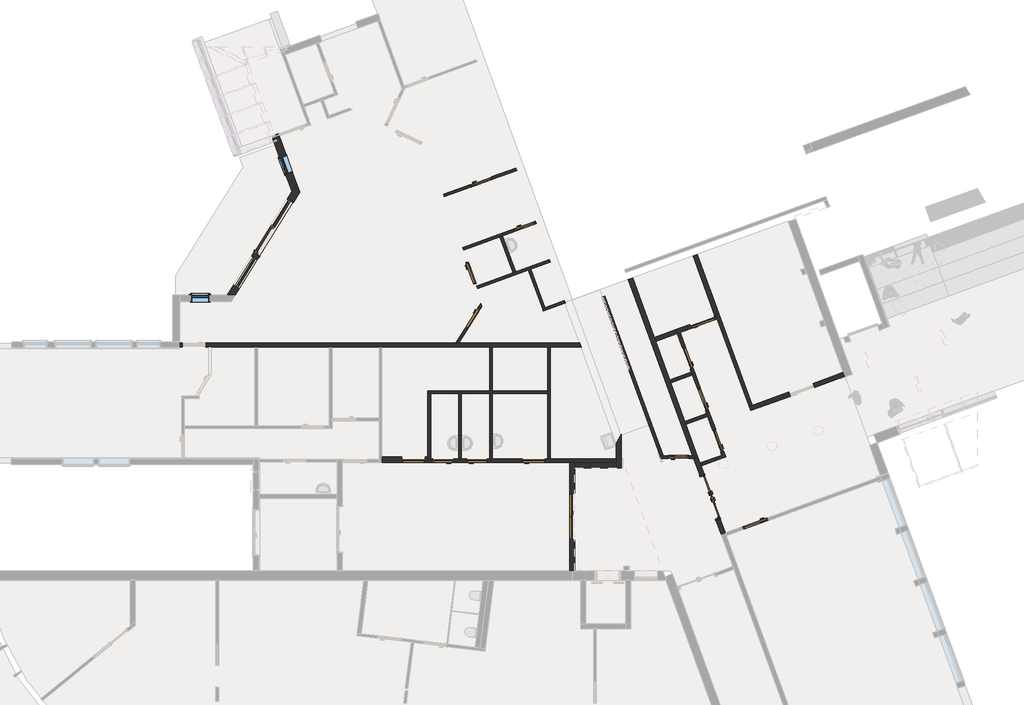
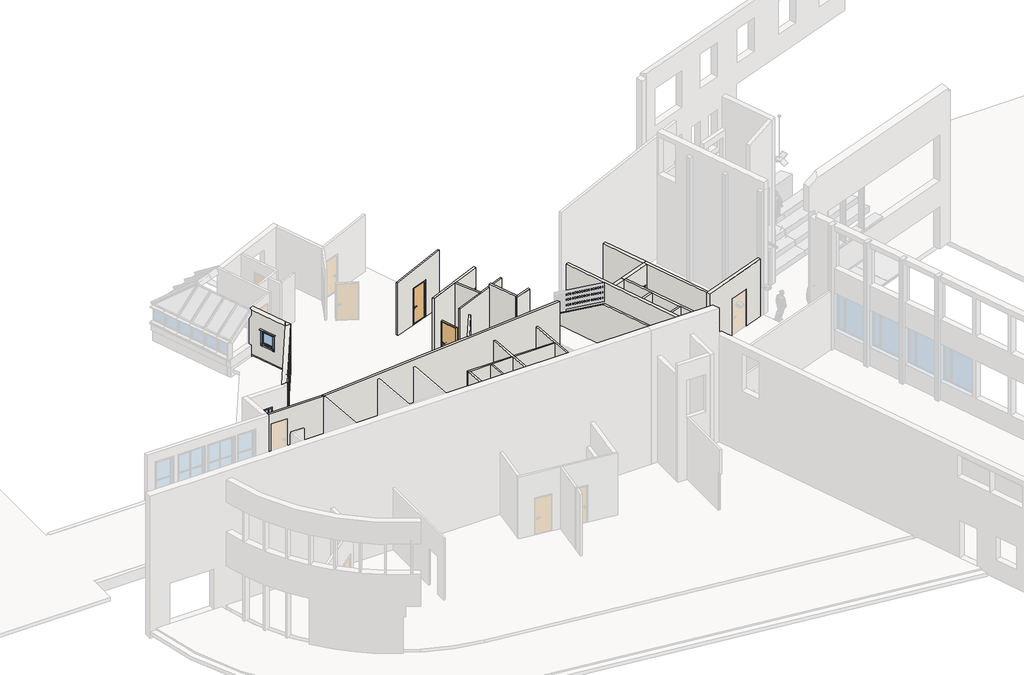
# One storey, part 7 of 13: 38 walls, 18 doors, 2 windows.
"""IFC4 building model written with IfcOpenShell, lengths in millimetres."""

from ifc_helpers import new_model, si_unit, frame, origin, place, context, project, spatial, polyline, outline, extrude, faceted_brep, transform, mapped, element, save
from components import door_10x21_f2746e1a, door_10x21_f5951159, door_18x21_0508fdc8, door_25x21_st1_7496c36d, door_8x21_e3e5b9c7, door_8x21_1535dc22, door_8x21_60cf5580, door_8x21_7557395c, door_9x21_77222ef3, door_9x21_12a167ef, door_9x21_ce0798c1, door_9x21_316ed650, door_9x21_26e5542c, fast_felt_stf_1_stf1_1_324_4ac73a34, m_door_id_dbl_2_1810_x_2110mm_165bc984, window_7x7_fk_a7d3f3a8, window_7x7_fk_a22a5b26

model = new_model("IFC4")

# Units and contexts
model_context = context("Model", 3, world=origin())
ifc_project = project(units=[si_unit("LENGTHUNIT", "METRE", prefix="MILLI")], contexts=[model_context])

# Site, building, storey
site = spatial("IfcSite", under=ifc_project)
building = spatial("IfcBuilding", under=site)
storey = spatial("IfcBuildingStorey", under=building, Name="1.0 første etg hovedbygg", Elevation=2500.0)

# Doors
placement = place(None, origin())
door_10x21_shape = door_10x21_f2746e1a(model_context)
element("IfcDoor", 1, ObjectType="Innerdør Slett (Diplomat) : 10x21", at=placement, inside=storey, context=model_context, shape_type="MappedRepresentation", body=[
    mapped(door_10x21_shape, transform((28285.6933124, 9596.8825087, 2500.0), x_axis=(-0.9396926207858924, -0.3420201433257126, 0.0), y_axis=(0.3420201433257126, -0.9396926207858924, 0.0), z_axis=(0.0, 0.0, 1.0))),
])
door_10x21_2_shape = door_10x21_f5951159(model_context)
element("IfcDoor", 2, ObjectType="Innerdør Slett (Diplomat) : 10x21", at=placement, inside=storey, context=model_context, shape_type="MappedRepresentation", body=[
    mapped(door_10x21_2_shape, transform((30233.0552928, 1702.8582925, 2500.0), x_axis=(0.9396926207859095, 0.34202014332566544, 0.0), y_axis=(-0.34202014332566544, 0.9396926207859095, 0.0), z_axis=(0.0, 0.0, 1.0))),
])
door_18x21_shape = door_18x21_0508fdc8(model_context)
element("IfcDoor", 3, ObjectType="Innerdør stål branndør A dobbel : 18x21", at=placement, inside=storey, context=model_context, shape_type="MappedRepresentation", body=[
    mapped(door_18x21_shape, transform((23151.9162483, 1946.620367, 2500.0), x_axis=(0.0, 1.0, 0.0), y_axis=(-1.0, 0.0, 0.0), z_axis=(0.0, 0.0, 1.0))),
])
door_25x21_st1_shape = door_25x21_st1_7496c36d(model_context)
element("IfcDoor", 4, ObjectType="Balkongdor ST 1 : 25x21 ST1", at=placement, inside=storey, context=model_context, shape_type="MappedRepresentation", body=[
    mapped(door_25x21_st1_shape, transform((11524.6539438, 13258.6225432, 2500.0), x_axis=(-0.5299192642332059, -0.8480480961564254, 0.0), y_axis=(0.8480480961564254, -0.5299192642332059, 0.0), z_axis=(0.0, 0.0, 1.0))),
])
door_8x21_shape = door_8x21_e3e5b9c7(model_context)
element("IfcDoor", 5, ObjectType="Innerdør Slett (Diplomat) : 8x21", at=placement, inside=storey, context=model_context, shape_type="MappedRepresentation", body=[
    mapped(door_8x21_shape, transform((18073.5366152, 4175.0, 2500.0), x_axis=(1.0, 0.0, 0.0), y_axis=(0.0, 1.0, 0.0), z_axis=(0.0, 0.0, 1.0))),
])
door_8x21_2_shape = door_8x21_1535dc22(model_context)
element("IfcDoor", 6, ObjectType="Innerdør Slett (Diplomat) : 8x21", at=placement, inside=storey, context=model_context, shape_type="MappedRepresentation", body=[
    mapped(door_8x21_2_shape, transform((19500.2958813, 4175.0, 2500.0), x_axis=(-1.0, 0.0, 0.0), y_axis=(0.0, -1.0, 0.0), z_axis=(0.0, 0.0, 1.0))),
])
door_8x21_3_shape = door_8x21_60cf5580(model_context)
element("IfcDoor", 7, ObjectType="Innerdør Slett (Diplomat) : 8x21", at=placement, inside=storey, context=model_context, shape_type="MappedRepresentation", body=[
    mapped(door_8x21_3_shape, transform((27346.3914611, 4319.2748738, 2500.0), x_axis=(-1.0, 0.0, 0.0), y_axis=(0.0, -1.0, 0.0), z_axis=(0.0, 0.0, 1.0))),
])
door_8x21_4_shape = door_8x21_7557395c(model_context)
element("IfcDoor", 8, ObjectType="Innerdør Slett (Diplomat) : 8x21", at=placement, inside=storey, context=model_context, shape_type="MappedRepresentation", body=[
    mapped(door_8x21_4_shape, transform((21363.7045102, 13328.5558584, 2500.0), x_axis=(-0.9396926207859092, -0.34202014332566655, 0.0), y_axis=(0.34202014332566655, -0.9396926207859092, 0.0), z_axis=(0.0, 0.0, 1.0))),
])
door_9x21_shape = door_9x21_77222ef3(model_context)
element("IfcDoor", 9, ObjectType="Innerdør Slett (Diplomat) : 9x21", at=placement, inside=storey, context=model_context, shape_type="MappedRepresentation", body=[
    mapped(door_9x21_shape, transform((28816.5747381, 4993.4139609, 2500.0), x_axis=(0.34202007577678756, -0.9396926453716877, 0.0), y_axis=(0.9396926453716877, 0.34202007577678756, 0.0), z_axis=(0.0, 0.0, 1.0))),
])
element("IfcDoor", 10, ObjectType="Innerdør Slett (Diplomat) : 9x21", at=placement, inside=storey, context=model_context, shape_type="MappedRepresentation", body=[
    mapped(door_9x21_shape, transform((28227.7146972, 6611.2939883, 2500.0), x_axis=(0.34202007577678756, -0.9396926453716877, 0.0), y_axis=(0.9396926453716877, 0.34202007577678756, 0.0), z_axis=(0.0, 0.0, 1.0))),
])
element("IfcDoor", 11, ObjectType="Innerdør Slett (Diplomat) : 9x21", at=placement, inside=storey, context=model_context, shape_type="MappedRepresentation", body=[
    mapped(door_9x21_shape, transform((27641.6778354, 8221.4173932, 2500.0), x_axis=(0.34202007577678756, -0.9396926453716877, 0.0), y_axis=(0.9396926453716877, 0.34202007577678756, 0.0), z_axis=(0.0, 0.0, 1.0))),
])
door_9x21_2_shape = door_9x21_12a167ef(model_context)
element("IfcDoor", 12, ObjectType="Innerdør Slett (Diplomat) : 9x21", at=placement, inside=storey, context=model_context, shape_type="MappedRepresentation", body=[
    mapped(door_9x21_2_shape, transform((21710.2958813, 4175.0, 2500.0), x_axis=(-1.0, 0.0, 0.0), y_axis=(0.0, -1.0, 0.0), z_axis=(0.0, 0.0, 1.0))),
])
door_9x21_3_shape = door_9x21_ce0798c1(model_context)
element("IfcDoor", 13, ObjectType="Innerdør Slett (Diplomat) : 9x21", at=placement, inside=storey, context=model_context, shape_type="MappedRepresentation", body=[
    mapped(door_9x21_3_shape, transform((19669.2183425, 15053.0044304, 2500.0), x_axis=(-0.9396926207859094, -0.3420201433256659, 0.0), y_axis=(0.3420201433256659, -0.9396926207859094, 0.0), z_axis=(0.0, 0.0, 1.0))),
])
door_9x21_4_shape = door_9x21_316ed650(model_context)
element("IfcDoor", 14, ObjectType="Innerdør Slett (Diplomat) : 9x21", at=placement, inside=storey, context=model_context, shape_type="MappedRepresentation", body=[
    mapped(door_9x21_4_shape, transform((19254.895983, 9668.673877, 2500.0), x_axis=(0.5299192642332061, 0.8480480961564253, 0.0), y_axis=(-0.8480480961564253, 0.5299192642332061, 0.0), z_axis=(0.0, 0.0, 1.0))),
])
element("IfcDoor", 15, ObjectType="Innerdør Slett (Diplomat) : 9x21", at=placement, inside=storey, context=model_context, shape_type="MappedRepresentation", body=[
    mapped(door_9x21_4_shape, transform((19225.9218388, 11429.4834072, 2500.0), x_axis=(-0.34202014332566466, 0.9396926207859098, 0.0), y_axis=(-0.9396926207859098, -0.34202014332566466, 0.0), z_axis=(0.0, 0.0, 1.0))),
])
door_9x21_5_shape = door_9x21_26e5542c(model_context)
element("IfcDoor", 16, ObjectType="Innerdør Slett (Diplomat) : 9x21", at=placement, inside=storey, context=model_context, shape_type="MappedRepresentation", body=[
    mapped(door_9x21_5_shape, transform((17030.2958813, 4210.0, 2500.0), x_axis=(-1.0, 0.0, 0.0), y_axis=(0.0, -1.0, 0.0), z_axis=(0.0, 0.0, 1.0))),
])
fast_felt_stf_1_stf1_1_324_shape = fast_felt_stf_1_stf1_1_324_4ac73a34(model_context)
element("IfcDoor", 17, ObjectType="Fast-Felt STF 1 : STF1 1,324", at=placement, inside=storey, context=model_context, shape_type="MappedRepresentation", body=[
    mapped(fast_felt_stf_1_stf1_1_324_shape, transform((10435.1399365, 11515.0356575, 2500.0), x_axis=(0.5299192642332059, 0.8480480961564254, 0.0), y_axis=(-0.8480480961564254, 0.5299192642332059, 0.0), z_axis=(0.0, 0.0, 1.0))),
])
m_door_id_dbl_2_1810_x_2110mm_shape = m_door_id_dbl_2_1810_x_2110mm_165bc984(model_context)
element("IfcDoor", 18, ObjectType="M_Door_ID_Dbl_2 : 1810 x 2110mm", at=placement, inside=storey, context=model_context, shape_type="MappedRepresentation", body=[
    mapped(m_door_id_dbl_2_1810_x_2110mm_shape, transform((28517.8931241, 2755.7344856, 2500.0), x_axis=(0.34202014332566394, -0.9396926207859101, 0.0), y_axis=(0.9396926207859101, 0.34202014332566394, 0.0), z_axis=(0.0, 0.0, 1.0))),
])

# Walls
element("IfcWall", 19, ObjectType="Yttervegg 200 betong seksjonsskille", at=placement, inside=storey, context=model_context, shape_type="Brep", body=[
    faceted_brep([(23251.9162483, -110.0, 5911.6745073), (23251.9162483, -110.0, 2500.0), (23251.9162483, 1095.0, 2500.0), (23251.9162483, 1095.0, 4615.0), (23251.9162483, 2905.0, 4615.0), (23251.9162483, 2905.0, 2500.0), (23251.9162483, 3900.0, 2500.0), (23251.9162483, 4100.0, 2500.0), (23251.9162483, 4100.0, 5543.3472339), (23251.9162483, 3900.0, 5560.8449666), (23051.9162483, -110.0, 2500.0), (23051.9162483, -110.0, 5911.6745073), (23051.9162483, 4100.0, 5543.3472339), (23051.9162483, 4100.0, 2500.0), (23051.9162483, 2905.0, 2500.0), (23051.9162483, 2905.0, 4615.0), (23051.9162483, 1095.0, 4615.0), (23051.9162483, 1095.0, 2500.0)], [[[0, 1, 2, 3, 4, 5, 6, 7, 8, 9]], [[10, 11, 12, 13, 14, 15, 16, 17]], [[1, 10, 17, 2]], [[13, 7, 6, 5, 14]], [[1, 0, 11, 10]], [[8, 7, 13, 12]], [[0, 9, 8, 12, 11]], [[16, 3, 2, 17]], [[3, 16, 15, 4]], [[4, 15, 14, 5]]]),
])
element("IfcWall", 20, ObjectType="Yttervegg Tre 198 Isolert Liggende Kledning", at=placement, inside=storey, context=model_context, shape_type="Brep", body=[
    faceted_brep([(10037.7598281, 10630.0, 5023.0970072), (10037.7598281, 10630.0, 2500.0), (10196.2757323, 10883.6784749, 2500.0), (10196.2757323, 10883.6784749, 4600.0), (10897.8888381, 12006.4941542, 4600.0), (10897.8888381, 12006.4941542, 2500.0), (10968.8980195, 12120.1325991, 2500.0), (10968.8980195, 12120.1325991, 4600.0), (12304.2945654, 14257.2138014, 4600.0), (12304.2945654, 14257.2138014, 2500.0), (12540.3752971, 14635.021948, 2500.0), (12540.3752971, 14635.021948, 5023.0970072), (9726.4567296, 10630.0, 2500.0), (9726.4567296, 10630.0, 5000.0), (12248.2574516, 14665.7247708, 5000.0), (12425.7914321, 14949.8385298, 5023.0970072), (12425.7914321, 14949.8385298, 2500.0), (12248.2574516, 14665.7247708, 2500.0), (12080.409868, 14397.1124872, 2500.0), (12080.409868, 14397.1124872, 4600.0), (10745.0133222, 12260.0312849, 4600.0), (10745.0133222, 12260.0312849, 2500.0), (10674.0041408, 12146.39284, 2500.0), (10674.0041408, 12146.39284, 4600.0), (9972.3910349, 11023.5771607, 4600.0), (9972.3910349, 11023.5771607, 2500.0), (9790.1323634, 10630.0, 2500.0), (10018.1856321, 10994.9615204, 2500.0), (12449.2290408, 14885.444229, 2500.0), (12126.2044652, 14368.4968469, 2500.0), (10790.8079194, 12231.4156446, 2500.0), (10719.7987379, 12117.7771997, 2500.0)], [[[0, 1, 2, 3, 4, 5, 6, 7, 8, 9, 10, 11]], [[12, 13, 14, 15, 16, 17, 18, 19, 20, 21, 22, 23, 24, 25]], [[1, 26, 27, 2]], [[28, 10, 9, 29]], [[30, 6, 5, 31]], [[1, 0, 13, 12, 26]], [[26, 12, 25, 27]], [[16, 28, 29, 18, 17]], [[21, 30, 31, 22]], [[11, 10, 28, 16, 15]], [[13, 0, 11, 14]], [[11, 15, 14]], [[7, 6, 30, 21, 20]], [[8, 7, 20, 19]], [[9, 8, 19, 18, 29]], [[4, 23, 22, 31, 5]], [[23, 4, 3, 24]], [[24, 3, 2, 27, 25]]]),
])
element("IfcWall", 21, ObjectType="Yttervegg Tre 198 Isolert Liggende Kledning", at=placement, inside=storey, context=model_context, shape_type="Brep", body=[
    faceted_brep([(12425.7914321, 14949.8385298, 2500.0), (11749.2309068, 16808.6732959, 2500.0), (11749.2309068, 16808.6732959, 5023.0970072), (12425.7914321, 14949.8385298, 5023.0970072), (12014.2740033, 16080.473373, 3380.0), (12257.1083051, 15413.2916122, 3380.0), (12257.1083051, 15413.2916122, 4090.0), (12014.2740033, 16080.473373, 4090.0), (12248.2574516, 14665.7247708, 2500.0), (12248.2574516, 14665.7247708, 5000.0), (11551.0826985, 16581.1966622, 5000.0), (11501.1520549, 16718.379978, 5000.0), (11501.1520549, 16718.379978, 3000.0), (11551.0826985, 16581.1966622, 3000.0), (11551.0826985, 16581.1966622, 2500.0), (11766.1951514, 15990.1800552, 3380.0), (11766.1951514, 15990.1800552, 4090.0), (12009.0294532, 15322.9982944, 4090.0), (12009.0294532, 15322.9982944, 3380.0), (12284.5712203, 14723.8389488, 2500.0), (11601.8261, 16599.66575, 2500.0), (11675.1221244, 16626.3433212, 2500.0), (11625.1914809, 16763.5266369, 2500.0), (11625.1914809, 16763.5266369, 3000.0), (11675.1221244, 16626.3433212, 3000.0)], [[[0, 1, 2, 3], [4, 5, 6, 7]], [[8, 9, 10, 11, 12, 13, 14], [15, 16, 17, 18]], [[1, 0, 19, 20, 21, 22]], [[0, 3, 9, 8, 19]], [[19, 8, 14, 20]], [[3, 2, 11, 10, 9]], [[12, 23, 24, 13]], [[22, 21, 24, 23]], [[21, 20, 14, 13, 24]], [[1, 22, 23, 12, 11, 2]], [[16, 15, 4, 7]], [[17, 16, 7, 6]], [[18, 17, 6, 5]], [[15, 18, 5, 4]]]),
])
element("IfcWall", 22, ObjectType="Yttervegg Betong - Massiv 170mm", at=placement, inside=storey, context=model_context, shape_type="SweptSolid", body=[
    extrude(outline(polyline([(1555.0, -3520.0), (-1572.7621165, -3520.0), (-1572.7621165, -2115.0), (-562.7621165, -2115.0), (-562.7621165, -2110.0), (-10.0, -2110.0), (-10.0, -2115.0), (1000.0, -2115.0), (1000.0, 0.0), (1555.0, 0.0), (1555.0, -3520.0)])), frame((28423.5730444, 2766.3534008, 2500.0), z_axis=(0.9396926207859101, 0.34202014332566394, 0.0), x_axis=(0.34202014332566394, -0.9396926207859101, 0.0)), (0.0, 0.0, 1.0), 170.0),
])
element("IfcWall", 23, ObjectType="Yttervegg 200 betong seksjonsskille", at=placement, inside=storey, context=model_context, shape_type="Brep", body=[
    faceted_brep([(23251.9162483, 3900.0, 5560.8449666), (23251.9162483, 3900.0, 2500.0), (23856.9162483, 3900.0, 2500.0), (23856.9162483, 3900.0, 4615.0), (24766.9162483, 3900.0, 4615.0), (24766.9162483, 3900.0, 2500.0), (24866.8558497, 3900.0, 2500.0), (24866.8558497, 3900.0, 4900.0), (24866.8558497, 3900.0, 5560.8449666), (23251.9162483, 4100.0, 2500.0), (23251.9162483, 4100.0, 5543.3472339), (24866.8558497, 4100.0, 5543.3472339), (24866.8558497, 4100.0, 2500.0), (24766.9162483, 4100.0, 2500.0), (24766.9162483, 4100.0, 4615.0), (23856.9162483, 4100.0, 4615.0), (23856.9162483, 4100.0, 2500.0)], [[[0, 1, 2, 3, 4, 5, 6, 7, 8]], [[9, 10, 11, 12, 13, 14, 15, 16]], [[1, 9, 16, 2]], [[12, 6, 5, 13]], [[1, 0, 10, 9]], [[8, 7, 6, 12, 11]], [[0, 8, 11, 10]], [[4, 14, 13, 5]], [[14, 4, 3, 15]], [[15, 3, 2, 16]]]),
])
element("IfcWall", 24, ObjectType="Yttervegg 200 betong seksjonsskille", at=placement, inside=storey, context=model_context, shape_type="Brep", body=[
    faceted_brep([(24866.8558497, 4848.7480081, 2500.0), (24866.8558497, 4100.0, 2500.0), (24866.8558497, 3900.0, 2500.0), (24866.8558497, 3900.0, 4900.0), (24866.8558497, 4848.7480081, 4900.0), (25066.8558497, 5205.6318882, 2500.0), (25066.8558497, 5205.6318882, 4900.0), (25066.8558497, 3900.0, 4900.0), (25066.8558497, 3900.0, 2500.0)], [[[0, 1, 2, 3, 4]], [[5, 6, 7, 8]], [[2, 1, 0, 5, 8]], [[4, 3, 7, 6]], [[3, 2, 8, 7]], [[0, 4, 6, 5]]]),
])
element("IfcWall", 25, ObjectType="Yttervegg Betong - Massiv 170mm", at=placement, inside=storey, context=model_context, shape_type="Brep", body=[
    faceted_brep([(28045.4044654, 4302.4097803, 2500.0), (25504.1948005, 11284.3259527, 2500.0), (25504.1948005, 11284.3259527, 6020.0), (28045.4044654, 4302.4097803, 6020.0), (28045.4044654, 4302.4097803, 4615.0), (25344.447055, 11226.1825284, 2500.0), (27885.6567199, 4244.2663559, 2500.0), (27885.6567199, 4244.2663559, 4615.0), (27885.6567199, 4244.2663559, 6020.0), (25344.447055, 11226.1825284, 6020.0)], [[[0, 1, 2, 3, 4]], [[5, 6, 7, 8, 9]], [[1, 0, 6, 5]], [[3, 2, 9, 8]], [[3, 8, 7, 6, 0, 4]], [[2, 1, 5, 9]]]),
])
element("IfcWall", 26, ObjectType="Yttervegg Betong - Massiv 170mm", at=placement, inside=storey, context=model_context, shape_type="SweptSolid", body=[
    extrude(outline(polyline([(1000.0, 0.0), (1000.0, -2115.0), (-10.0, -2115.0), (-10.0, -2110.0), (947.2378835, -2110.0), (947.2378835, 0.0), (1000.0, 0.0)])), frame((28423.5730444, 2766.3534008, 2500.0), z_axis=(0.9396926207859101, 0.34202014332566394, 0.0), x_axis=(0.34202014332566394, -0.9396926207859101, 0.0)), (0.0, 0.0, 1.0), 170.0),
])
element("IfcWall", 27, ObjectType="Yttervegg Betong - Massiv 170mm", at=placement, inside=storey, context=model_context, shape_type="SweptSolid", body=[
    extrude(outline(polyline([(-562.7621165, -2115.0), (-1572.7621165, -2115.0), (-1572.7621165, 0.0), (-862.7621165, 0.0), (-862.7621165, -2110.0), (-562.7621165, -2110.0), (-562.7621165, -2115.0)])), frame((28423.5730444, 2766.3534008, 2500.0), z_axis=(0.9396926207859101, 0.34202014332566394, 0.0), x_axis=(0.34202014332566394, -0.9396926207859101, 0.0)), (0.0, 0.0, 1.0), 170.0),
])
element("IfcWall", 28, ObjectType="Innervegg Tre 148", at=placement, inside=storey, context=model_context, shape_type="Brep", body=[
    faceted_brep([(33693.7832827, 7612.9168603, 2500.0), (32528.5715606, 7188.8122757, 2500.0), (32528.5715606, 7188.8122757, 4615.0), (31579.4825898, 6843.3703478, 4615.0), (31579.4825898, 6843.3703478, 2500.0), (30161.4807309, 6327.2572005, 2500.0), (30046.8383008, 6285.5305518, 2500.0), (30046.8383008, 6285.5305518, 5750.0), (30161.4807309, 6327.2572005, 5750.0), (33693.7832827, 7612.9168603, 5750.0), (32587.3992948, 7027.1852431, 4615.0), (32587.3992948, 7027.1852431, 2500.0), (33752.6107474, 7451.2897295, 2500.0), (33752.6107474, 7451.2897295, 5750.0), (30105.666035, 6123.9035191, 5750.0), (30105.666035, 6123.9035191, 2500.0), (31638.310324, 6681.7433152, 2500.0), (31638.310324, 6681.7433152, 4615.0)], [[[0, 1, 2, 3, 4, 5, 6, 7, 8, 9]], [[10, 11, 12, 13, 14, 15, 16, 17]], [[16, 15, 6, 5, 4]], [[12, 11, 1, 0]], [[9, 8, 7, 14, 13]], [[0, 9, 13, 12]], [[7, 6, 15, 14]], [[2, 1, 11, 10]], [[3, 2, 10, 17]], [[4, 3, 17, 16]]]),
])
element("IfcWall", 29, ObjectType="Innervegg Tre 98 med 100mm isolasjon", at=placement, inside=storey, context=model_context, shape_type="Brep", body=[
    faceted_brep([(30161.4807309, 6327.2572005, 2500.0), (28861.7982791, 9898.0868568, 2500.0), (28861.7982791, 9898.0868568, 5750.0), (30161.4807309, 6327.2572005, 5750.0), (30046.8383008, 6285.5305518, 2500.0), (30046.8383008, 6285.5305518, 5750.0), (28805.9835136, 9694.7333666, 5750.0), (28747.1557793, 9856.3603993, 5750.0), (28747.1557793, 9856.3603993, 2500.0), (28805.9835136, 9694.7333666, 2500.0)], [[[0, 1, 2, 3]], [[4, 5, 6, 7, 8, 9]], [[1, 0, 4, 9, 8]], [[3, 2, 7, 6, 5]], [[0, 3, 5, 4]], [[2, 1, 8, 7]]]),
])
element("IfcWall", 30, ObjectType="Innervegg Tre 148", at=placement, inside=storey, context=model_context, shape_type="Brep", body=[
    faceted_brep([(28747.1557793, 9856.3603993, 2500.0), (28700.1711483, 9839.2593921, 2500.0), (28680.6639063, 9832.1593367, 2500.0), (28680.6639063, 9832.1593367, 4615.0), (27731.5743593, 9486.7189919, 4615.0), (27731.5743593, 9486.7189919, 2500.0), (27188.2124644, 9288.9514357, 2500.0), (27188.2124644, 9288.9514357, 5750.0), (28700.1711483, 9839.2593921, 5750.0), (28747.1557793, 9856.3603993, 5750.0), (28739.491371, 9670.5322059, 4615.0), (28739.491371, 9670.5322059, 2500.0), (28805.9835136, 9694.7333666, 2500.0), (28805.9835136, 9694.7333666, 5750.0), (27361.6824172, 9169.0507582, 5750.0), (27247.0399174, 9127.3243007, 5750.0), (27247.0399174, 9127.3243007, 2500.0), (27361.6824172, 9169.0507582, 2500.0), (27790.401824, 9325.0918611, 2500.0), (27790.401824, 9325.0918611, 4615.0)], [[[0, 1, 2, 3, 4, 5, 6, 7, 8, 9]], [[10, 11, 12, 13, 14, 15, 16, 17, 18, 19]], [[12, 11, 2, 1, 0]], [[18, 17, 16, 6, 5]], [[9, 8, 7, 15, 14, 13]], [[0, 9, 13, 12]], [[7, 6, 16, 15]], [[3, 2, 11, 10]], [[4, 3, 10, 19]], [[5, 4, 19, 18]]]),
])
element("IfcWall", 31, ObjectType="Innervegg Tre 98 med 100mm isolasjon", at=placement, inside=storey, context=model_context, shape_type="Brep", body=[
    faceted_brep([(27247.0399174, 9127.3243007, 2500.0), (27446.9943557, 8577.9538737, 2500.0), (27446.9943557, 8577.9538737, 4615.0), (27758.2326247, 7722.8335664, 4615.0), (27758.2326247, 7722.8335664, 2500.0), (27794.2720387, 7623.8160681, 2500.0), (27835.9984879, 7509.1735654, 2500.0), (28033.0312175, 6967.8304688, 2500.0), (28033.0312175, 6967.8304688, 4615.0), (28344.2694865, 6112.7101615, 4615.0), (28344.2694865, 6112.7101615, 2500.0), (28383.2306091, 6005.6653328, 2500.0), (28424.9570584, 5891.0228301, 2500.0), (28621.8912584, 5349.9504413, 2500.0), (28621.8912584, 5349.9504413, 4615.0), (28933.1295274, 4494.830134, 4615.0), (28933.1295274, 4494.830134, 2500.0), (28972.1891796, 4387.5145975, 2500.0), (29013.9156289, 4272.8720947, 2500.0), (29013.9156289, 4272.8720947, 5750.0), (28972.1891796, 4387.5145975, 5750.0), (28424.9570584, 5891.0228301, 5750.0), (28383.2306091, 6005.6653328, 5750.0), (27835.9984879, 7509.1735654, 5750.0), (27794.2720387, 7623.8160681, 5750.0), (27247.0399174, 9127.3243007, 5750.0), (27561.6368585, 8619.6803229, 4615.0), (27561.6368585, 8619.6803229, 2500.0), (27361.6824172, 9169.0507582, 2500.0), (27361.6824172, 9169.0507582, 5750.0), (29128.5581286, 4314.5985522, 5750.0), (29128.5581286, 4314.5985522, 2500.0), (29047.7720301, 4536.5565833, 2500.0), (29047.7720301, 4536.5565833, 4615.0), (28736.5337612, 5391.6768906, 4615.0), (28736.5337612, 5391.6768906, 2500.0), (28458.9119892, 6154.4366107, 2500.0), (28458.9119892, 6154.4366107, 4615.0), (28147.6737203, 7009.556918, 4615.0), (28147.6737203, 7009.556918, 2500.0), (27872.8751274, 7764.5600156, 2500.0), (27872.8751274, 7764.5600156, 4615.0)], [[[0, 1, 2, 3, 4, 5, 6, 7, 8, 9, 10, 11, 12, 13, 14, 15, 16, 17, 18, 19, 20, 21, 22, 23, 24, 25]], [[26, 27, 28, 29, 30, 31, 32, 33, 34, 35, 36, 37, 38, 39, 40, 41]], [[32, 31, 18, 17, 16]], [[36, 35, 13, 12, 11, 10]], [[40, 39, 7, 6, 5, 4]], [[28, 27, 1, 0]], [[25, 24, 23, 22, 21, 20, 19, 30, 29]], [[0, 25, 29, 28]], [[19, 18, 31, 30]], [[14, 13, 35, 34]], [[15, 14, 34, 33]], [[16, 15, 33, 32]], [[8, 7, 39, 38]], [[9, 8, 38, 37]], [[10, 9, 37, 36]], [[2, 1, 27, 26]], [[3, 2, 26, 41]], [[4, 3, 41, 40]]]),
])
element("IfcWall", 32, ObjectType="Innervegg Tre 98 med 100mm isolasjon", at=placement, inside=storey, context=model_context, shape_type="SweptSolid", body=[
    extrude(outline(polyline([(28126.4655214, 4079.6963594), (28972.1891796, 4387.5145975), (29013.9156289, 4272.8720947), (28168.1919789, 3965.0538597), (28126.4655214, 4079.6963594)])), frame((0.0, 0.0, 2500.0), z_axis=(0.0, 0.0, 1.0), x_axis=(1.0, 0.0, 0.0)), (0.0, 0.0, 1.0), 3250.0),
])
element("IfcWall", 33, ObjectType="Innervegg Tre 98 med 100mm isolasjon", at=placement, inside=storey, context=model_context, shape_type="SweptSolid", body=[
    extrude(outline(polyline([(27537.5068346, 5697.8470524), (28383.2306091, 6005.6653328), (28424.9570584, 5891.0228301), (27579.2332921, 5583.2045527), (27537.5068346, 5697.8470524)])), frame((0.0, 0.0, 2500.0), z_axis=(0.0, 0.0, 1.0), x_axis=(1.0, 0.0, 0.0)), (0.0, 0.0, 1.0), 3250.0),
])
element("IfcWall", 34, ObjectType="Innervegg Tre 98 med 100mm isolasjon", at=placement, inside=storey, context=model_context, shape_type="SweptSolid", body=[
    extrude(outline(polyline([(26948.5481478, 7315.9977454), (27794.2720387, 7623.8160681), (27835.9984879, 7509.1735654), (26990.2746052, 7201.3552457), (26948.5481478, 7315.9977454)])), frame((0.0, 0.0, 2500.0), z_axis=(0.0, 0.0, 1.0), x_axis=(1.0, 0.0, 0.0)), (0.0, 0.0, 1.0), 3250.0),
])
element("IfcWall", 35, ObjectType="Innervegg Tre 148", at=placement, inside=storey, context=model_context, shape_type="Brep", body=[
    faceted_brep([(28861.7982791, 9898.0868568, 2500.0), (28023.500784, 12201.2783417, 2500.0), (28023.500784, 12201.2783417, 5750.0), (28861.7982791, 9898.0868568, 5750.0), (28700.1711483, 9839.2593921, 2500.0), (28700.1711483, 9839.2593921, 5750.0), (27861.8736532, 12142.4508771, 5750.0), (27861.8736532, 12142.4508771, 2500.0), (28747.1557793, 9856.3603993, 2500.0), (28747.1557793, 9856.3603993, 5750.0)], [[[0, 1, 2, 3]], [[4, 5, 6, 7]], [[1, 0, 8, 4, 7]], [[3, 2, 6, 5, 9]], [[0, 3, 9, 5, 4, 8]], [[2, 1, 7, 6]]]),
])
element("IfcWall", 36, ObjectType="Yttervegg 200 betong seksjonsskille", at=placement, inside=storey, context=model_context, shape_type="SweptSolid", body=[
    extrude(outline(polyline([(23856.9162483, 3900.0), (23856.9162483, 4100.0), (24766.9162483, 4100.0), (24766.9162483, 3900.0), (23856.9162483, 3900.0)])), frame((0.0, 0.0, 2500.0), z_axis=(0.0, 0.0, 1.0), x_axis=(1.0, 0.0, 0.0)), (0.0, 0.0, 1.0), 2115.0),
])
element("IfcWall", 37, ObjectType="Innervegg Tre 148", at=placement, inside=storey, context=model_context, shape_type="SweptSolid", body=[
    extrude(outline(polyline([(26342.4884538, 8981.1330695), (27188.2124644, 9288.9514357), (27247.0399174, 9127.3243007), (26401.3159184, 8819.5059387), (26342.4884538, 8981.1330695)])), frame((0.0, 0.0, 2500.0), z_axis=(0.0, 0.0, 1.0), x_axis=(1.0, 0.0, 0.0)), (0.0, 0.0, 1.0), 3250.0),
])
element("IfcWall", 38, ObjectType="Generic - 100mm - Filled", at=placement, inside=storey, context=model_context, shape_type="Brep", body=[
    faceted_brep([(22306.9162483, 4250.0, 2500.0), (22306.9162483, 8600.0, 2500.0), (22306.9162483, 8600.0, 5149.648248), (22306.9162483, 4250.0, 5530.2239344), (22206.9162483, 4250.0, 2500.0), (22206.9162483, 4250.0, 5530.2239344), (22206.9162483, 6800.0, 5307.1278424), (22206.9162483, 6900.0, 5298.378976), (22206.9162483, 8600.0, 5149.648248), (22206.9162483, 8600.0, 2500.0), (22206.9162483, 6900.0, 2500.0), (22206.9162483, 6800.0, 2500.0)], [[[0, 1, 2, 3]], [[4, 5, 6, 7, 8, 9, 10, 11]], [[1, 0, 4, 11, 10, 9]], [[0, 3, 5, 4]], [[2, 1, 9, 8]], [[3, 2, 8, 7, 6, 5]]]),
])
element("IfcWall", 39, ObjectType="Generic - 100mm - Filled", at=placement, inside=storey, context=model_context, shape_type="Brep", body=[
    faceted_brep([(20036.9162483, 4250.0, 2500.0), (20036.9162483, 6800.0, 2500.0), (20036.9162483, 6900.0, 2500.0), (20036.9162483, 8600.0, 2500.0), (20036.9162483, 8600.0, 5149.648248), (20036.9162483, 6900.0, 5298.378976), (20036.9162483, 6800.0, 5307.1278424), (20036.9162483, 4250.0, 5530.2239344), (19936.9162483, 4250.0, 2500.0), (19936.9162483, 4250.0, 5530.2239344), (19936.9162483, 6800.0, 5307.1278424), (19936.9162483, 6900.0, 5298.378976), (19936.9162483, 8600.0, 5149.648248), (19936.9162483, 8600.0, 2500.0), (19936.9162483, 6900.0, 2500.0), (19936.9162483, 6800.0, 2500.0)], [[[0, 1, 2, 3, 4, 5, 6, 7]], [[8, 9, 10, 11, 12, 13, 14, 15]], [[3, 2, 1, 0, 8, 15, 14, 13]], [[0, 7, 9, 8]], [[4, 3, 13, 12]], [[7, 6, 5, 4, 12, 11, 10, 9]]]),
])
element("IfcWall", 40, ObjectType="Generic - 100mm - Filled", at=placement, inside=storey, context=model_context, shape_type="Brep", body=[
    faceted_brep([(22206.9162483, 6900.0, 5298.378976), (22206.9162483, 6900.0, 2500.0), (20036.9162483, 6900.0, 2500.0), (20036.9162483, 6900.0, 5298.378976), (22206.9162483, 6800.0, 2500.0), (22206.9162483, 6800.0, 5307.1278424), (20036.9162483, 6800.0, 5307.1278424), (20036.9162483, 6800.0, 2500.0)], [[[0, 1, 2, 3]], [[4, 5, 6, 7]], [[1, 4, 7, 2]], [[1, 0, 5, 4]], [[3, 2, 7, 6]], [[5, 0, 3, 6]]]),
    faceted_brep([(17536.9162483, 6900.0, 2500.0), (17536.9162483, 6900.0, 5298.378976), (19936.9162483, 6900.0, 5298.378976), (19936.9162483, 6900.0, 2500.0), (17536.9162483, 6800.0, 5307.1278424), (17536.9162483, 6800.0, 2500.0), (17636.9162483, 6800.0, 2500.0), (18736.9162483, 6800.0, 2500.0), (18836.9162483, 6800.0, 2500.0), (19936.9162483, 6800.0, 2500.0), (19936.9162483, 6800.0, 5307.1278424), (18836.9162483, 6800.0, 5307.1278424), (18736.9162483, 6800.0, 5307.1278424), (17636.9162483, 6800.0, 5307.1278424)], [[[0, 1, 2, 3]], [[4, 5, 6, 7, 8, 9, 10, 11, 12, 13]], [[5, 0, 3, 9, 8, 7, 6]], [[3, 2, 10, 9]], [[1, 0, 5, 4]], [[1, 4, 13, 12, 11, 10, 2]]]),
])
element("IfcWall", 41, ObjectType="Generic - 100mm - Filled", at=placement, inside=storey, context=model_context, shape_type="Brep", body=[
    faceted_brep([(17536.9162483, 6800.0, 2500.0), (17536.9162483, 4320.0, 2500.0), (17536.9162483, 4100.0, 2500.0), (17536.9162483, 4100.0, 5543.3472339), (17536.9162483, 4320.0, 5524.0997279), (17536.9162483, 6800.0, 5307.1278424), (17636.9162483, 6800.0, 2500.0), (17636.9162483, 6800.0, 5307.1278424), (17636.9162483, 4250.0, 5530.2239344), (17636.9162483, 4100.0, 5543.3472339), (17636.9162483, 4100.0, 2500.0), (17636.9162483, 4250.0, 2500.0)], [[[0, 1, 2, 3, 4, 5]], [[6, 7, 8, 9, 10, 11]], [[2, 1, 0, 6, 11, 10]], [[0, 5, 7, 6]], [[3, 2, 10, 9]], [[5, 4, 3, 9, 8, 7]]]),
])
element("IfcWall", 42, ObjectType="Generic - 100mm - Filled", at=placement, inside=storey, context=model_context, shape_type="SweptSolid", body=[
    extrude(outline(polyline([(6800.0, 2500.0), (4250.0, 2500.0), (4250.0, 5530.2239344), (6800.0, 5307.1278424), (6800.0, 2500.0)])), frame((18736.9162483, 0.0, 0.0), z_axis=(1.0, 0.0, 0.0), x_axis=(0.0, 1.0, 0.0)), (0.0, 0.0, 1.0), 100.0),
])
element("IfcWall", 43, ObjectType="Generic - 100mm - Filled", at=placement, inside=storey, context=model_context, shape_type="Brep", body=[
    faceted_brep([(19586.2487472, 10293.3031426, 5747.1531865), (19586.2487472, 10293.3031426, 2500.0), (19481.8937393, 10126.3002202, 2500.0), (19481.8937393, 10126.3002202, 4615.0), (18999.6672089, 9354.5764527, 4615.0), (18999.6672089, 9354.5764527, 2500.0), (18621.8859127, 8750.0, 2500.0), (18621.8859127, 8750.0, 5747.1531865), (19629.6517264, 10174.0544374, 2500.0), (19629.6517264, 10174.0544374, 5755.9020529), (18739.803753, 8750.0, 5755.9020529), (18739.803753, 8750.0, 2500.0), (19084.4720185, 9301.5845263, 2500.0), (19084.4720185, 9301.5845263, 4615.0), (19566.6985489, 10073.3082938, 4615.0), (19566.6985489, 10073.3082938, 2500.0)], [[[0, 1, 2, 3, 4, 5, 6, 7]], [[8, 9, 10, 11, 12, 13, 14, 15]], [[1, 8, 15, 2]], [[11, 6, 5, 12]], [[1, 0, 9, 8]], [[7, 6, 11, 10]], [[0, 7, 10, 9]], [[4, 13, 12, 5]], [[13, 4, 3, 14]], [[14, 3, 2, 15]]]),
])
element("IfcWall", 44, ObjectType="Generic - 100mm - Filled", at=placement, inside=storey, context=model_context, shape_type="Brep", body=[
    faceted_brep([(22843.272745, 10408.4968948, 2500.0), (22091.5186483, 10134.8807802, 2500.0), (21997.5493862, 10100.6787658, 2500.0), (21997.5493862, 10100.6787658, 6020.0), (22091.5186483, 10134.8807802, 6020.0), (22843.272745, 10408.4968948, 6020.0), (22877.4747593, 10314.5276328, 2500.0), (22877.4747593, 10314.5276328, 6020.0), (22031.7514006, 10006.7095038, 6020.0), (22031.7514006, 10006.7095038, 2500.0)], [[[0, 1, 2, 3, 4, 5]], [[6, 7, 8, 9]], [[2, 1, 0, 6, 9]], [[5, 4, 3, 8, 7]], [[0, 5, 7, 6]], [[3, 2, 9, 8]]]),
])
element("IfcWall", 45, ObjectType="Generic - 100mm - Filled", at=placement, inside=storey, context=model_context, shape_type="SweptSolid", body=[
    extrude(outline(polyline([(21544.286419, 11638.3889734), (22091.5186483, 10134.8807802), (21997.5493862, 10100.6787658), (21450.3171569, 11604.1869591), (21544.286419, 11638.3889734)])), frame((0.0, 0.0, 2500.0), z_axis=(0.0, 0.0, 1.0), x_axis=(1.0, 0.0, 0.0)), (0.0, 0.0, 1.0), 3520.0),
])
element("IfcWall", 46, ObjectType="Generic - 100mm - Filled", at=placement, inside=storey, context=model_context, shape_type="Brep", body=[
    faceted_brep([(22261.8385013, 12005.9743502, 2500.0), (20946.2688322, 11527.1461495, 2500.0), (20852.2995701, 11492.9441352, 2500.0), (19442.7606389, 10979.9139202, 2500.0), (19442.7606389, 10979.9139202, 5704.6745449), (20852.2995701, 11492.9441352, 5785.4696444), (20946.2688322, 11527.1461495, 5790.8559844), (22261.8385013, 12005.9743502, 5866.2647439), (22296.0405156, 11912.0050881, 2500.0), (22296.0405156, 11912.0050881, 5873.1589447), (19476.9626533, 10885.9446581, 5711.5687457), (19476.9626533, 10885.9446581, 2500.0), (21450.3171569, 11604.1869591, 2500.0), (21544.286419, 11638.3889734, 2500.0)], [[[0, 1, 2, 3, 4, 5, 6, 7]], [[8, 9, 10, 11, 12, 13]], [[3, 2, 1, 0, 8, 13, 12, 11]], [[0, 7, 9, 8]], [[4, 3, 11, 10]], [[7, 6, 5, 4, 10, 9]]]),
])
element("IfcWall", 47, ObjectType="Generic - 100mm - Filled", at=placement, inside=storey, context=model_context, shape_type="Brep", body=[
    faceted_brep([(20946.2688322, 11527.1461495, 2500.0), (20433.2386172, 12936.6850807, 2500.0), (20433.2386172, 12936.6850807, 5687.4429729), (20946.2688322, 11527.1461495, 5790.8559844), (20852.2995701, 11492.9441352, 2500.0), (20852.2995701, 11492.9441352, 5785.4696444), (20339.2693551, 12902.4830664, 5682.0566329), (20339.2693551, 12902.4830664, 2500.0)], [[[0, 1, 2, 3]], [[4, 5, 6, 7]], [[1, 0, 4, 7]], [[0, 3, 5, 4]], [[2, 1, 7, 6]], [[3, 2, 6, 5]]]),
])
element("IfcWall", 48, ObjectType="Generic - 100mm - Filled", at=placement, inside=storey, context=model_context, shape_type="Brep", body=[
    faceted_brep([(21748.8082863, 13415.5132813, 2500.0), (21748.8082863, 13415.5132813, 5762.8517324), (20433.2386172, 12936.6850807, 5687.4429729), (20339.2693551, 12902.4830664, 5682.0566329), (18929.730424, 12389.4528514, 5601.2615334), (18929.730424, 12389.4528514, 2500.0), (20339.2693551, 12902.4830664, 2500.0), (20433.2386172, 12936.6850807, 2500.0), (20950.0695586, 13124.7961595, 2500.0), (20950.0695586, 13124.7961595, 4615.0), (21711.2205815, 13401.8324756, 4615.0), (21711.2205815, 13401.8324756, 2500.0), (21714.606272, 13509.4825434, 5755.9575316), (21714.606272, 13509.4825434, 2500.0), (21677.0185671, 13495.8017377, 2500.0), (21677.0185671, 13495.8017377, 4615.0), (20915.8675443, 13218.7654216, 4615.0), (20915.8675443, 13218.7654216, 2500.0), (18895.5284096, 12483.4221135, 2500.0), (18895.5284096, 12483.4221135, 5594.3673326)], [[[0, 1, 2, 3, 4, 5, 6, 7, 8, 9, 10, 11]], [[12, 13, 14, 15, 16, 17, 18, 19]], [[13, 0, 11, 14]], [[5, 18, 17, 8, 7, 6]], [[1, 0, 13, 12]], [[5, 4, 19, 18]], [[4, 3, 2, 1, 12, 19]], [[10, 15, 14, 11]], [[15, 10, 9, 16]], [[16, 9, 8, 17]]]),
])
element("IfcWall", 49, ObjectType="Generic - 100mm - Filled", at=placement, inside=storey, context=model_context, shape_type="SweptSolid", body=[
    extrude(outline(polyline([(2007.5000001, -2115.0), (2007.5000001, 0.0), (3000.0, 0.0), (3000.0, -3243.65364), (0.0, -2981.1876494), (0.0, 0.0), (1097.5, 0.0), (1097.5, -2115.0), (2007.5000001, -2115.0)])), frame((18177.2861086, 14456.7766171, 2500.0), z_axis=(-0.3420201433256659, 0.9396926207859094, 0.0), x_axis=(0.9396926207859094, 0.3420201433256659, 0.0)), (0.0, 0.0, 1.0), 100.0),
])
element("IfcWall", 50, ObjectType="Generic - 100mm - Filled", at=placement, inside=storey, context=model_context, shape_type="Brep", body=[
    faceted_brep([(27895.8349692, 4369.2748738, 2500.0), (27698.0118281, 4369.2748738, 2500.0), (27698.0118281, 4369.2748738, 4615.0), (26888.0118281, 4369.2748738, 4615.0), (26888.0118281, 4369.2748738, 2500.0), (26690.8453461, 4369.2748738, 2500.0), (26584.4275688, 4369.2748738, 2500.0), (26584.4275688, 4369.2748738, 5820.0), (26690.8453461, 4369.2748738, 5820.0), (27895.8349692, 4369.2748738, 5820.0), (27698.0118281, 4269.2748738, 4615.0), (27698.0118281, 4269.2748738, 2500.0), (27895.8349692, 4269.2748738, 2500.0), (27895.8349692, 4269.2748738, 5820.0), (26620.8245923, 4269.2748738, 5820.0), (26620.8245923, 4269.2748738, 2500.0), (26888.0118281, 4269.2748738, 2500.0), (26888.0118281, 4269.2748738, 4615.0)], [[[0, 1, 2, 3, 4, 5, 6, 7, 8, 9]], [[10, 11, 12, 13, 14, 15, 16, 17]], [[16, 15, 6, 5, 4]], [[12, 11, 1, 0]], [[9, 8, 7, 14, 13]], [[0, 9, 13, 12]], [[7, 6, 15, 14]], [[2, 1, 11, 10]], [[3, 2, 10, 17]], [[4, 3, 17, 16]]]),
])
element("IfcWall", 51, ObjectType="Generic - 100mm - Filled", at=placement, inside=storey, context=model_context, shape_type="Brep", body=[
    faceted_brep([(26690.8453461, 4369.2748738, 2500.0), (24426.2622273, 10591.165857, 2500.0), (24426.2622273, 10591.165857, 4100.0), (24523.1447048, 10324.9834378, 4100.0), (25442.32384, 7799.5595194, 5820.0), (26690.8453461, 4369.2748738, 5820.0), (26584.4275688, 4369.2748738, 2500.0), (26584.4275688, 4369.2748738, 5820.0), (25348.3545779, 7765.3575051, 5820.0), (24429.1754427, 10290.7814235, 4100.0), (24332.2929652, 10556.9638427, 4100.0), (24332.2929652, 10556.9638427, 2500.0)], [[[0, 1, 2, 3, 4, 5]], [[6, 7, 8, 9, 10, 11]], [[0, 5, 7, 6]], [[1, 0, 6, 11]], [[2, 1, 11, 10]], [[5, 4, 8, 7]], [[3, 2, 10, 9]], [[4, 3, 9, 8]]]),
])
element("IfcWall", 52, ObjectType="Generic - 150mm - Filled", at=placement, inside=storey, context=model_context, shape_type="Brep", body=[
    faceted_brep([(24866.8558497, 4250.0, 5530.2239344), (24866.8558497, 4250.0, 2500.0), (22306.9162483, 4250.0, 2500.0), (22206.9162483, 4250.0, 2500.0), (22111.9162483, 4250.0, 2500.0), (22111.9162483, 4250.0, 4615.0), (21201.9162483, 4250.0, 4615.0), (21201.9162483, 4250.0, 2500.0), (20036.9162483, 4250.0, 2500.0), (19936.9162483, 4250.0, 2500.0), (19851.9162483, 4250.0, 2500.0), (19851.9162483, 4250.0, 4615.0), (19041.9162483, 4250.0, 4615.0), (19041.9162483, 4250.0, 2500.0), (18836.9162483, 4250.0, 2500.0), (18736.9162483, 4250.0, 2500.0), (18531.9162483, 4250.0, 2500.0), (18531.9162483, 4250.0, 4615.0), (17721.9162483, 4250.0, 4615.0), (17721.9162483, 4250.0, 2500.0), (17636.9162483, 4250.0, 2500.0), (17636.9162483, 4250.0, 5530.2239344), (18736.9162483, 4250.0, 5530.2239344), (18836.9162483, 4250.0, 5530.2239344), (19936.9162483, 4250.0, 5530.2239344), (20036.9162483, 4250.0, 5530.2239344), (22206.9162483, 4250.0, 5530.2239344), (22306.9162483, 4250.0, 5530.2239344), (24866.8558497, 4100.0, 2500.0), (24866.8558497, 4100.0, 5543.3472339), (23251.9162483, 4100.0, 5543.3472339), (23051.9162483, 4100.0, 5543.3472339), (17636.9162483, 4100.0, 5543.3472339), (17636.9162483, 4100.0, 2500.0), (17721.9162483, 4100.0, 2500.0), (17721.9162483, 4100.0, 4615.0), (18531.9162483, 4100.0, 4615.0), (18531.9162483, 4100.0, 2500.0), (19041.9162483, 4100.0, 2500.0), (19041.9162483, 4100.0, 4615.0), (19851.9162483, 4100.0, 4615.0), (19851.9162483, 4100.0, 2500.0), (21201.9162483, 4100.0, 2500.0), (21201.9162483, 4100.0, 4615.0), (22111.9162483, 4100.0, 4615.0), (22111.9162483, 4100.0, 2500.0), (23051.9162483, 4100.0, 2500.0), (23251.9162483, 4100.0, 2500.0)], [[[0, 1, 2, 3, 4, 5, 6, 7, 8, 9, 10, 11, 12, 13, 14, 15, 16, 17, 18, 19, 20, 21, 22, 23, 24, 25, 26, 27]], [[28, 29, 30, 31, 32, 33, 34, 35, 36, 37, 38, 39, 40, 41, 42, 43, 44, 45, 46, 47]], [[1, 28, 47, 46, 45, 4, 3, 2]], [[33, 20, 19, 34]], [[37, 16, 15, 14, 13, 38]], [[41, 10, 9, 8, 7, 42]], [[1, 0, 29, 28]], [[21, 20, 33, 32]], [[0, 27, 26, 25, 24, 23, 22, 21, 32, 31, 30, 29]], [[18, 35, 34, 19]], [[35, 18, 17, 36]], [[36, 17, 16, 37]], [[40, 11, 10, 41]], [[11, 40, 39, 12]], [[12, 39, 38, 13]], [[44, 5, 4, 45]], [[5, 44, 43, 6]], [[6, 43, 42, 7]]]),
])
element("IfcWall", 53, ObjectType="Generic - 150mm - Filled", at=placement, inside=storey, context=model_context, shape_type="Brep", body=[
    faceted_brep([(7865.9162483, 8750.0, 2500.0), (7865.9162483, 8750.0, 5164.4786874), (10768.5577463, 8750.0, 5164.4786874), (18621.8859127, 8750.0, 5747.1531865), (18739.803753, 8750.0, 5755.9020529), (23446.9162483, 8750.0, 6105.1443559), (23446.9162483, 8750.0, 2500.0), (18739.803753, 8750.0, 2500.0), (18621.8859127, 8750.0, 2500.0), (8888.9162483, 8750.0, 2500.0), (8888.9162483, 8750.0, 4615.0), (7978.9162483, 8750.0, 4615.0), (7978.9162483, 8750.0, 2500.0), (7865.9162483, 8600.0, 5177.601987), (7865.9162483, 8600.0, 2500.0), (7978.9162483, 8600.0, 2500.0), (7978.9162483, 8600.0, 4615.0), (8888.9162483, 8600.0, 4615.0), (8888.9162483, 8600.0, 2500.0), (10801.9162483, 8600.0, 2500.0), (10901.9162483, 8600.0, 2500.0), (13701.9162483, 8600.0, 2500.0), (13801.9162483, 8600.0, 2500.0), (15631.9162483, 8600.0, 2500.0), (15731.9162483, 8600.0, 2500.0), (19936.9162483, 8600.0, 2500.0), (20036.9162483, 8600.0, 2500.0), (22206.9162483, 8600.0, 2500.0), (22306.9162483, 8600.0, 2500.0), (23501.5117834, 8600.0, 2500.0), (23501.5117834, 8600.0, 6116.1493387), (10851.704104, 8600.0, 5177.601987)], [[[0, 1, 2, 3, 4, 5, 6, 7, 8, 9, 10, 11, 12]], [[13, 14, 15, 16, 17, 18, 19, 20, 21, 22, 23, 24, 25, 26, 27, 28, 29, 30, 31]], [[6, 29, 28, 27, 26, 25, 24, 23, 22, 21, 20, 19, 18, 9, 8, 7]], [[14, 0, 12, 15]], [[1, 0, 14, 13]], [[6, 5, 30, 29]], [[30, 5, 4, 3, 2, 31]], [[1, 13, 31, 2]], [[11, 16, 15, 12]], [[16, 11, 10, 17]], [[17, 10, 9, 18]]]),
])
element("IfcWall", 54, ObjectType="Generic - 220mm - Filled", at=placement, inside=storey, context=model_context, shape_type="Brep", body=[
    faceted_brep([(17536.9162483, 4100.0, 2500.0), (17536.9162483, 4100.0, 5543.3472339), (15731.9162483, 4100.0, 5543.3472339), (15731.9162483, 4100.0, 2500.0), (16521.9162483, 4100.0, 2500.0), (16521.9162483, 4100.0, 4615.0), (17431.9162483, 4100.0, 4615.0), (17431.9162483, 4100.0, 2500.0), (17536.9162483, 4320.0, 5524.0997279), (17536.9162483, 4320.0, 2500.0), (17431.9162483, 4320.0, 2500.0), (17431.9162483, 4320.0, 4615.0), (16521.9162483, 4320.0, 4615.0), (16521.9162483, 4320.0, 2500.0), (15731.9162483, 4320.0, 2500.0), (15731.9162483, 4320.0, 5524.0997279)], [[[0, 1, 2, 3, 4, 5, 6, 7]], [[8, 9, 10, 11, 12, 13, 14, 15]], [[3, 14, 13, 4]], [[9, 0, 7, 10]], [[1, 0, 9, 8]], [[3, 2, 15, 14]], [[2, 1, 8, 15]], [[6, 11, 10, 7]], [[11, 6, 5, 12]], [[12, 5, 4, 13]]]),
])
element("IfcWall", 55, ObjectType="Yttervegg 200 betong", at=placement, inside=storey, context=model_context, shape_type="Brep", body=[
    faceted_brep([(12529.3102272, 14636.1849337, 1900.0), (11702.8915078, 16906.7517043, 1900.0), (11702.8915078, 16906.7517043, 2500.0), (12529.3102272, 14636.1849337, 2500.0), (12394.8147874, 14420.9472375, 1900.0), (12394.8147874, 14420.9472375, 2500.0), (12308.0088291, 14659.4446479, 2500.0), (11583.3570123, 16650.4091515, 2500.0), (11514.9529836, 16838.3476757, 2500.0), (11514.9529836, 16838.3476757, 1900.0), (11583.3570123, 16650.4091515, 1900.0), (12308.0088291, 14659.4446479, 1900.0)], [[[0, 1, 2, 3]], [[4, 5, 6, 7, 8, 9, 10, 11]], [[1, 0, 4, 11, 10, 9]], [[3, 2, 8, 7, 6, 5]], [[2, 1, 9, 8]], [[0, 3, 5, 4]]]),
])
element("IfcWall", 56, ObjectType="Yttervegg 200 betong", at=placement, inside=storey, context=model_context, shape_type="SweptSolid", body=[
    extrude(outline(polyline([(12394.8147874, 14420.9472375), (9992.225099, 10576.0), (9756.3894184, 10576.0), (12308.0088291, 14659.4446479), (12394.8147874, 14420.9472375)])), frame((0.0, 0.0, 1900.0), z_axis=(0.0, 0.0, 1.0), x_axis=(1.0, 0.0, 0.0)), (0.0, 0.0, 1.0), 600.0),
])

# Windows
window_7x7_fk_shape = window_7x7_fk_a7d3f3a8(model_context)
element("IfcWindow", 57, ObjectType="Vindu FK : 7x7 FK", at=placement, inside=storey, context=model_context, shape_type="MappedRepresentation", body=[
    mapped(window_7x7_fk_shape, transform((8669.1857909, 10498.0, 2500.0), x_axis=(1.0, 0.0, 0.0), y_axis=(0.0, 1.0, 0.0), z_axis=(0.0, 0.0, 1.0))),
])
window_7x7_fk_2_shape = window_7x7_fk_a22a5b26(model_context)
element("IfcWindow", 58, ObjectType="Vindu FK : 7x7 FK", at=placement, inside=storey, context=model_context, shape_type="MappedRepresentation", body=[
    mapped(window_7x7_fk_2_shape, transform((12011.6517283, 15701.7358337, 2500.0), x_axis=(0.3420201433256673, -0.9396926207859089, 0.0), y_axis=(0.9396926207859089, 0.3420201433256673, 0.0), z_axis=(0.0, 0.0, 1.0))),
])

save(model, "model.ifc")
